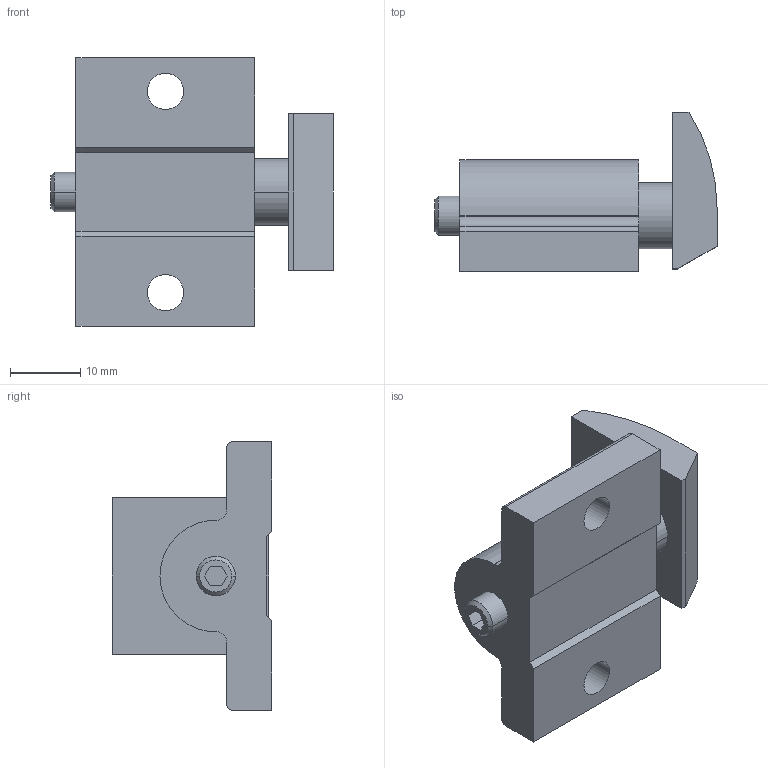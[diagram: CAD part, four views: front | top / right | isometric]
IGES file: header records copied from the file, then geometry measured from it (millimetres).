
Start section:  PTC IGES file: ss90c-3d.igs
Global section: file name: ss90c-3d.igs; native system: Pro/ENGINEER by Parametric Technology Corporation; preprocessor: 2002350; author: chant; organization: Unknown; date: 061026.135349; units: inch
Bounding box: 40.06 x 22.61 x 38.1 mm (x, y, z)
Surface area: 5879.9 mm2 (no closed solid volume)
Topology: 0 solids, 0 shells, 55 faces, 386 edges, 488 vertices
Faces by surface type: bspline 31, revolution 24
